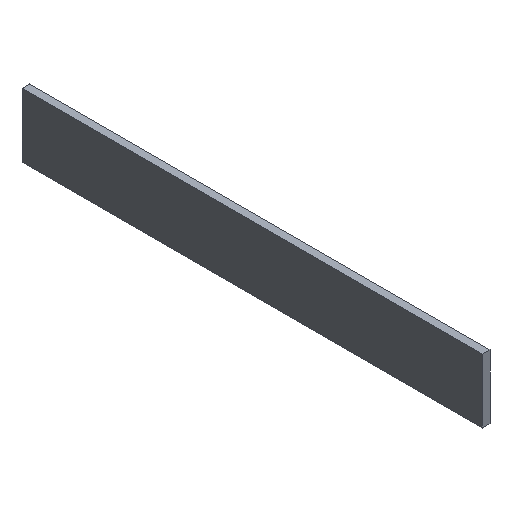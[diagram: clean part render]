
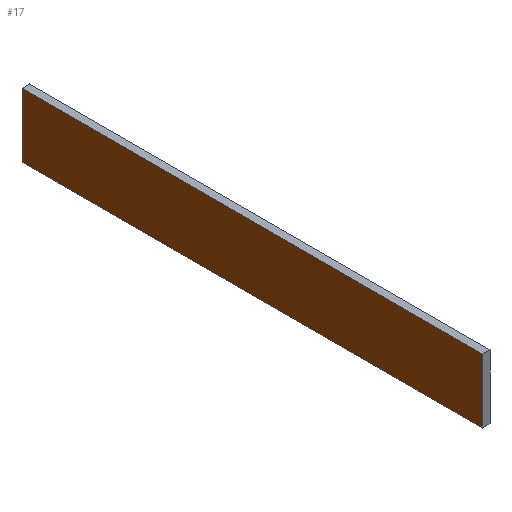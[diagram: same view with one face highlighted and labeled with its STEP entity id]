
A CAD part, isometric view. The second image highlights one B-rep face of the part: STEP entity #17.
In plain terms, the highlighted planar face has unit normal (-1, 0, 0).
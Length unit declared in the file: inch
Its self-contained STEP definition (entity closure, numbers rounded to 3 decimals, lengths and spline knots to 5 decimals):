
#17=ADVANCED_FACE('',(#23),#91,.T.);
#23=FACE_OUTER_BOUND('',#29,.T.);
#29=EDGE_LOOP('',(#44,#45,#46,#47));
#44=ORIENTED_EDGE('',*,*,#59,.T.);
#45=ORIENTED_EDGE('',*,*,#64,.T.);
#46=ORIENTED_EDGE('',*,*,#63,.F.);
#47=ORIENTED_EDGE('',*,*,#67,.F.);
#59=EDGE_CURVE('',#83,#80,#71,.T.);
#63=EDGE_CURVE('',#87,#84,#75,.T.);
#64=EDGE_CURVE('',#80,#84,#76,.T.);
#67=EDGE_CURVE('',#83,#87,#79,.T.);
#71=B_SPLINE_CURVE_WITH_KNOTS('',1,(#223,#224),.UNSPECIFIED.,.F.,.F.,(2,
2),(0.,72.),.UNSPECIFIED.);
#75=B_SPLINE_CURVE_WITH_KNOTS('',1,(#231,#232),.UNSPECIFIED.,.F.,.F.,(2,
2),(0.,72.),.UNSPECIFIED.);
#76=B_SPLINE_CURVE_WITH_KNOTS('',1,(#233,#234),.UNSPECIFIED.,.F.,.F.,(2,
2),(0.,10.),.UNSPECIFIED.);
#79=B_SPLINE_CURVE_WITH_KNOTS('',1,(#239,#240),.UNSPECIFIED.,.F.,.F.,(2,
2),(0.,10.),.UNSPECIFIED.);
#80=VERTEX_POINT('',#209);
#83=VERTEX_POINT('',#212);
#84=VERTEX_POINT('',#213);
#87=VERTEX_POINT('',#216);
#91=PLANE('',#188);
#188=AXIS2_PLACEMENT_3D('',#206,#197,$);
#197=DIRECTION('',(-1.,0.,0.));
#206=CARTESIAN_POINT('',(0.,72.,0.));
#209=CARTESIAN_POINT('',(0.,0.,0.));
#212=CARTESIAN_POINT('',(0.,72.,0.));
#213=CARTESIAN_POINT('',(0.,0.,10.));
#216=CARTESIAN_POINT('',(0.,72.,10.));
#223=CARTESIAN_POINT('',(0.,72.,0.));
#224=CARTESIAN_POINT('',(0.,0.,0.));
#231=CARTESIAN_POINT('',(0.,72.,10.));
#232=CARTESIAN_POINT('',(0.,0.,10.));
#233=CARTESIAN_POINT('',(0.,0.,0.));
#234=CARTESIAN_POINT('',(0.,0.,10.));
#239=CARTESIAN_POINT('',(0.,72.,0.));
#240=CARTESIAN_POINT('',(0.,72.,10.));
